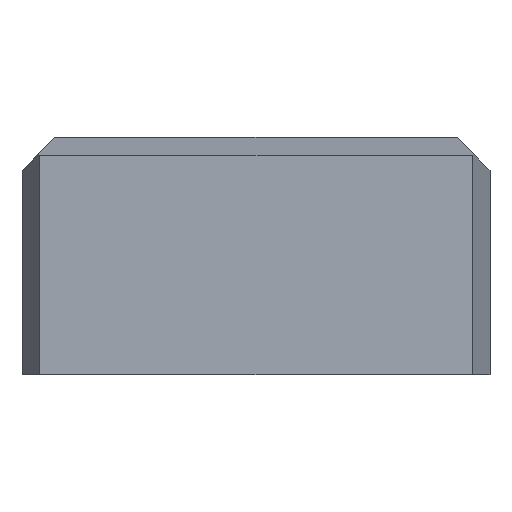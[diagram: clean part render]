
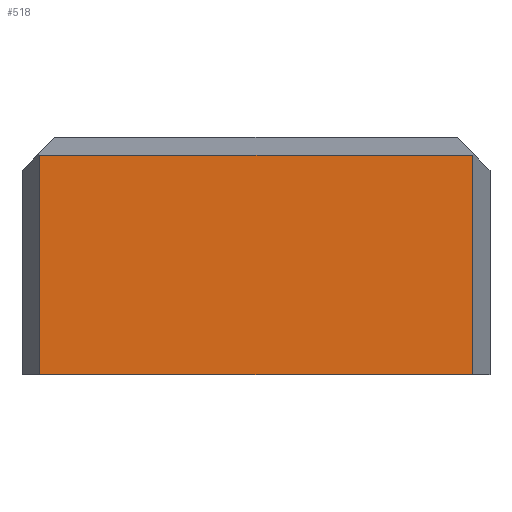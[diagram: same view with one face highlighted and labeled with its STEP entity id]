
A CAD part, front view. The second image highlights one B-rep face of the part: STEP entity #518.
In plain terms, the highlighted planar face has unit normal (0, -1, 0).
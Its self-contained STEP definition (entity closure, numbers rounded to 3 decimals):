
#98=CARTESIAN_POINT('Vertex',(32.821,0.,-36.)) ;
#101=CARTESIAN_POINT('Line Origine',(0.,0.,-36.)) ;
#105=CARTESIAN_POINT('Vertex',(-32.821,0.,-36.)) ;
#479=CARTESIAN_POINT('Vertex',(32.821,0.,-2.679)) ;
#482=CARTESIAN_POINT('Line Origine',(32.821,0.,-19.34)) ;
#495=CARTESIAN_POINT('Axis2P3D Location',(-32.821,0.,-36.)) ;
#500=CARTESIAN_POINT('Line Origine',(0.,0.,-2.679)) ;
#504=CARTESIAN_POINT('Vertex',(-32.821,0.,-2.679)) ;
#507=CARTESIAN_POINT('Line Origine',(-32.821,0.,-19.34)) ;
#102=DIRECTION('Vector Direction',(1.,0.,0.)) ;
#483=DIRECTION('Vector Direction',(0.,0.,1.)) ;
#496=DIRECTION('Axis2P3D Direction',(0.,-1.,0.)) ;
#497=DIRECTION('Axis2P3D XDirection',(0.,0.,-1.)) ;
#501=DIRECTION('Vector Direction',(-1.,0.,0.)) ;
#508=DIRECTION('Vector Direction',(0.,0.,1.)) ;
#498=AXIS2_PLACEMENT_3D('Plane Axis2P3D',#495,#496,#497) ;
#513=ORIENTED_EDGE('',*,*,#486,.T.) ;
#514=ORIENTED_EDGE('',*,*,#506,.T.) ;
#515=ORIENTED_EDGE('',*,*,#511,.F.) ;
#516=ORIENTED_EDGE('',*,*,#107,.T.) ;
#103=VECTOR('Line Direction',#102,1.) ;
#484=VECTOR('Line Direction',#483,1.) ;
#502=VECTOR('Line Direction',#501,1.) ;
#509=VECTOR('Line Direction',#508,1.) ;
#518=ADVANCED_FACE('A927-71X200X36',(#517),#499,.T.) ;
#107=EDGE_CURVE('',#106,#99,#104,.T.) ;
#486=EDGE_CURVE('',#99,#480,#485,.T.) ;
#506=EDGE_CURVE('',#480,#505,#503,.T.) ;
#511=EDGE_CURVE('',#106,#505,#510,.T.) ;
#512=EDGE_LOOP('',(#513,#514,#515,#516)) ;
#517=FACE_OUTER_BOUND('',#512,.T.) ;
#104=LINE('Line',#101,#103) ;
#485=LINE('Line',#482,#484) ;
#503=LINE('Line',#500,#502) ;
#510=LINE('Line',#507,#509) ;
#499=PLANE('Plane',#498) ;
#99=VERTEX_POINT('',#98) ;
#106=VERTEX_POINT('',#105) ;
#480=VERTEX_POINT('',#479) ;
#505=VERTEX_POINT('',#504) ;
